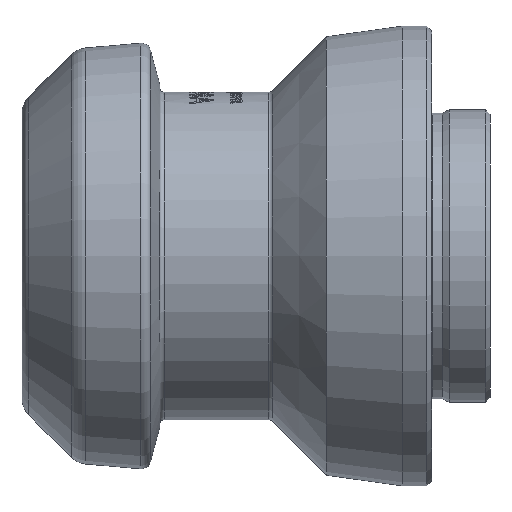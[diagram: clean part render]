
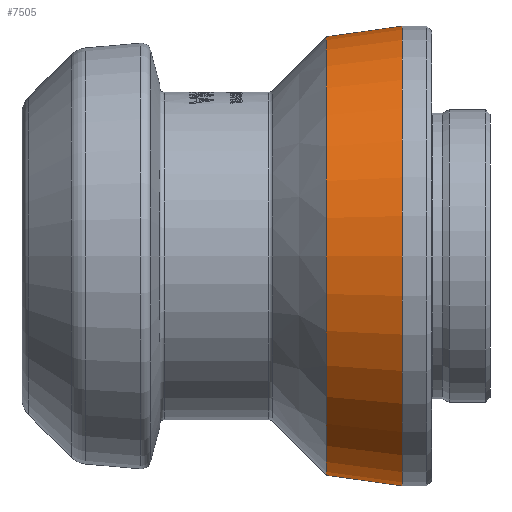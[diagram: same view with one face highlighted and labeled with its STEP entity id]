
A CAD part, front view. The second image highlights one B-rep face of the part: STEP entity #7505.
In plain terms, the highlighted conical face has half-angle 8 degrees and reference radius 19.65 mm.
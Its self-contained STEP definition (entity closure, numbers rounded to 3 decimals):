
#150 = DIRECTION ( 'NONE',  ( 0.99, 0., -0.139 ) ) ;
#247 = ORIENTED_EDGE ( 'NONE', *, *, #7364, .F. ) ;
#261 = ORIENTED_EDGE ( 'NONE', *, *, #6740, .T. ) ;
#577 = AXIS2_PLACEMENT_3D ( 'NONE', #1130, #3928, #6079 ) ;
#727 = CIRCLE ( 'NONE', #9201, 18.735 ) ;
#945 = CARTESIAN_POINT ( 'NONE',  ( -9., 0., 18.735 ) ) ;
#1130 = CARTESIAN_POINT ( 'NONE',  ( -2.49, 0., 0. ) ) ;
#1204 = CARTESIAN_POINT ( 'NONE',  ( -2.49, 0., 19.65 ) ) ;
#1400 = EDGE_CURVE ( 'NONE', #6317, #4836, #2033, .T. ) ;
#2033 = LINE ( 'NONE', #4163, #8885 ) ;
#2654 = DIRECTION ( 'NONE',  ( 0.99, 0., 0.139 ) ) ;
#2804 = ORIENTED_EDGE ( 'NONE', *, *, #1400, .F. ) ;
#3239 = CARTESIAN_POINT ( 'NONE',  ( -9., 0., -18.735 ) ) ;
#3703 = LINE ( 'NONE', #6666, #7271 ) ;
#3784 = DIRECTION ( 'NONE',  ( 1., 0., 0. ) ) ;
#3928 = DIRECTION ( 'NONE',  ( 1., 0., 0. ) ) ;
#4163 = CARTESIAN_POINT ( 'NONE',  ( -2.49, 0., 19.65 ) ) ;
#4424 = CARTESIAN_POINT ( 'NONE',  ( -9., 0., 0. ) ) ;
#4486 = CARTESIAN_POINT ( 'NONE',  ( -2.49, 0., -19.65 ) ) ;
#4668 = CONICAL_SURFACE ( 'NONE', #577, 19.65, 0.14 ) ;
#4836 = VERTEX_POINT ( 'NONE', #1204 ) ;
#5022 = CARTESIAN_POINT ( 'NONE',  ( -2.49, 0., 0. ) ) ;
#5087 = DIRECTION ( 'NONE',  ( 0., 0., -1. ) ) ;
#5119 = CIRCLE ( 'NONE', #6205, 19.65 ) ;
#5539 = ORIENTED_EDGE ( 'NONE', *, *, #8560, .T. ) ;
#5749 = EDGE_LOOP ( 'NONE', ( #2804, #261, #5539, #247 ) ) ;
#5769 = DIRECTION ( 'NONE',  ( 1., 0., 0. ) ) ;
#6079 = DIRECTION ( 'NONE',  ( 0., 0., -1. ) ) ;
#6205 = AXIS2_PLACEMENT_3D ( 'NONE', #5022, #3784, #8669 ) ;
#6317 = VERTEX_POINT ( 'NONE', #945 ) ;
#6666 = CARTESIAN_POINT ( 'NONE',  ( -2.49, 0., -19.65 ) ) ;
#6740 = EDGE_CURVE ( 'NONE', #6317, #8393, #727, .T. ) ;
#7271 = VECTOR ( 'NONE', #150, 1000. ) ;
#7364 = EDGE_CURVE ( 'NONE', #4836, #8772, #5119, .T. ) ;
#7505 = ADVANCED_FACE ( 'NONE', ( #7647 ), #4668, .T. ) ;
#7647 = FACE_OUTER_BOUND ( 'NONE', #5749, .T. ) ;
#8393 = VERTEX_POINT ( 'NONE', #3239 ) ;
#8560 = EDGE_CURVE ( 'NONE', #8393, #8772, #3703, .T. ) ;
#8669 = DIRECTION ( 'NONE',  ( 0., 0., -1. ) ) ;
#8772 = VERTEX_POINT ( 'NONE', #4486 ) ;
#8885 = VECTOR ( 'NONE', #2654, 1000. ) ;
#9201 = AXIS2_PLACEMENT_3D ( 'NONE', #4424, #5769, #5087 ) ;
